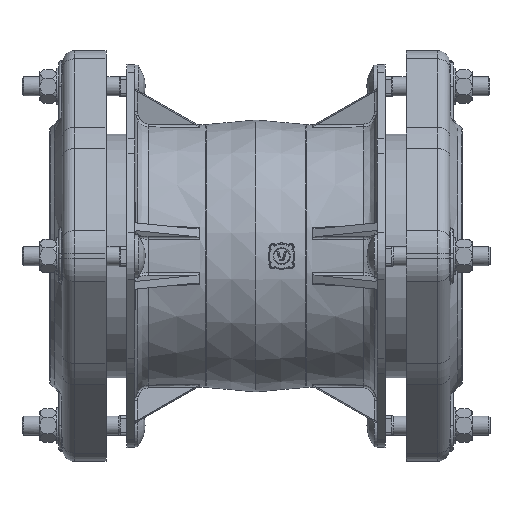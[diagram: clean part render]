
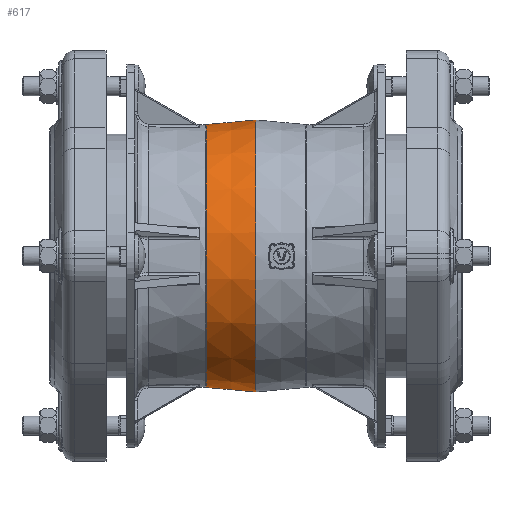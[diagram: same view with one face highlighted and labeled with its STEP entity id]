
A CAD part, front view. The second image highlights one B-rep face of the part: STEP entity #617.
In plain terms, the highlighted conical face has half-angle 5.186 degrees and reference radius 110.268 mm.
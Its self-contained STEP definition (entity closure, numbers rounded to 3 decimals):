
#590=CARTESIAN_POINT('',(-126.981,0.0,0.0));
#591=DIRECTION('',(1.0,0.0,0.0));
#592=DIRECTION('',(0.0,-1.0,0.0));
#593=AXIS2_PLACEMENT_3D('',#590,#591,#592);
#594=CONICAL_SURFACE('',#593,110.268,5.186);
#595=CARTESIAN_POINT('',(-106.5,112.127,0.));
#596=VERTEX_POINT('',#595);
#597=CARTESIAN_POINT('',(-106.5,0.0,0.0));
#598=DIRECTION('',(-1.0,0.0,0.0));
#599=DIRECTION('',(0.0,-1.0,0.0));
#600=AXIS2_PLACEMENT_3D('',#597,#598,#599);
#601=CIRCLE('',#600,112.127);
#602=EDGE_CURVE('',#596,#596,#601,.T.);
#603=ORIENTED_EDGE('',*,*,#602,.T.);
#604=EDGE_LOOP('',(#603));
#605=FACE_OUTER_BOUND('',#604,.T.);
#606=CARTESIAN_POINT('',(-147.462,0.,-108.409));
#607=VERTEX_POINT('',#606);
#608=CARTESIAN_POINT('',(-147.462,0.0,0.0));
#609=DIRECTION('',(-1.0,0.0,0.0));
#610=DIRECTION('',(0.0,-1.0,0.0));
#611=AXIS2_PLACEMENT_3D('',#608,#609,#610);
#612=CIRCLE('',#611,108.409);
#613=EDGE_CURVE('',#607,#607,#612,.T.);
#614=ORIENTED_EDGE('',*,*,#613,.F.);
#615=EDGE_LOOP('',(#614));
#616=FACE_BOUND('',#615,.T.);
#617=ADVANCED_FACE('',(#605,#616),#594,.T.);
